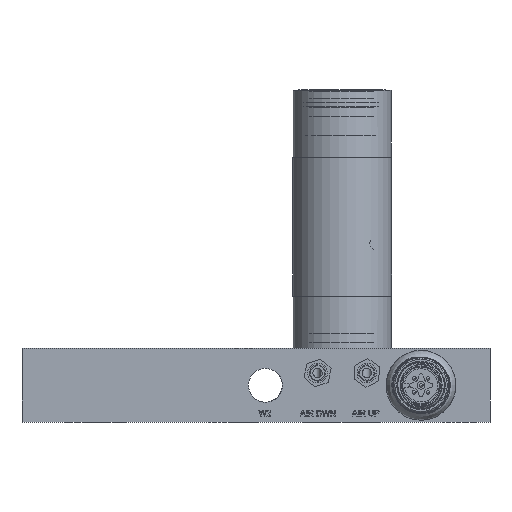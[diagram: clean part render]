
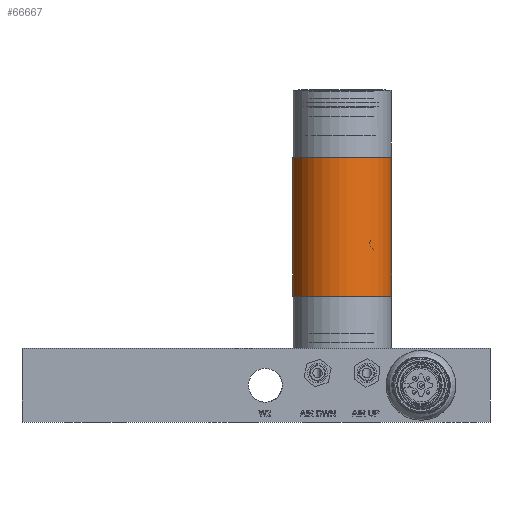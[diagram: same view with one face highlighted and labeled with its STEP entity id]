
A CAD part, front view. The second image highlights one B-rep face of the part: STEP entity #66667.
In plain terms, the highlighted cylindrical face has radius 12.827 mm (diameter 25.654 mm), a full revolution.
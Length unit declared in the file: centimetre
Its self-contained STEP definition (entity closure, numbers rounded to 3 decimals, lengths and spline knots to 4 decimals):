
#4157=CYLINDRICAL_SURFACE('',#72577,1.2827);
#7539=FACE_OUTER_BOUND('',#11713,.T.);
#11713=EDGE_LOOP('',(#54831,#54832,#54833,#54834));
#19753=CIRCLE('',#72578,1.2827);
#19754=CIRCLE('',#72579,1.2827);
#21417=LINE('',#179826,#23597);
#23597=VECTOR('',#84726,1.2827);
#28880=VERTEX_POINT('',#179823);
#28881=VERTEX_POINT('',#179825);
#37850=EDGE_CURVE('',#28880,#28880,#19753,.T.);
#37851=EDGE_CURVE('',#28880,#28881,#21417,.T.);
#37852=EDGE_CURVE('',#28881,#28881,#19754,.T.);
#54831=ORIENTED_EDGE('',*,*,#37850,.T.);
#54832=ORIENTED_EDGE('',*,*,#37851,.T.);
#54833=ORIENTED_EDGE('',*,*,#37852,.F.);
#54834=ORIENTED_EDGE('',*,*,#37851,.F.);
#66667=ADVANCED_FACE('',(#7539),#4157,.T.);
#72577=AXIS2_PLACEMENT_3D('',#179822,#84722,#84723);
#72578=AXIS2_PLACEMENT_3D('',#179824,#84724,#84725);
#72579=AXIS2_PLACEMENT_3D('',#179827,#84727,#84728);
#84722=DIRECTION('center_axis',(0.,0.,
1.));
#84723=DIRECTION('ref_axis',(0.97,-0.245,0.));
#84724=DIRECTION('center_axis',(0.,0.,
-1.));
#84725=DIRECTION('ref_axis',(0.97,-0.245,0.));
#84726=DIRECTION('',(0.,0.,-1.));
#84727=DIRECTION('center_axis',(0.,0.,
-1.));
#84728=DIRECTION('ref_axis',(0.97,-0.245,0.));
#179822=CARTESIAN_POINT('Origin',(0.,0.,
3.2513));
#179823=CARTESIAN_POINT('',(-1.2437,0.3139,6.8327));
#179824=CARTESIAN_POINT('Origin',(0.,0.,
6.8327));
#179825=CARTESIAN_POINT('',(-1.2437,0.3139,3.2513));
#179826=CARTESIAN_POINT('',(-1.2437,0.3139,3.2513));
#179827=CARTESIAN_POINT('Origin',(0.,0.,
3.2513));
